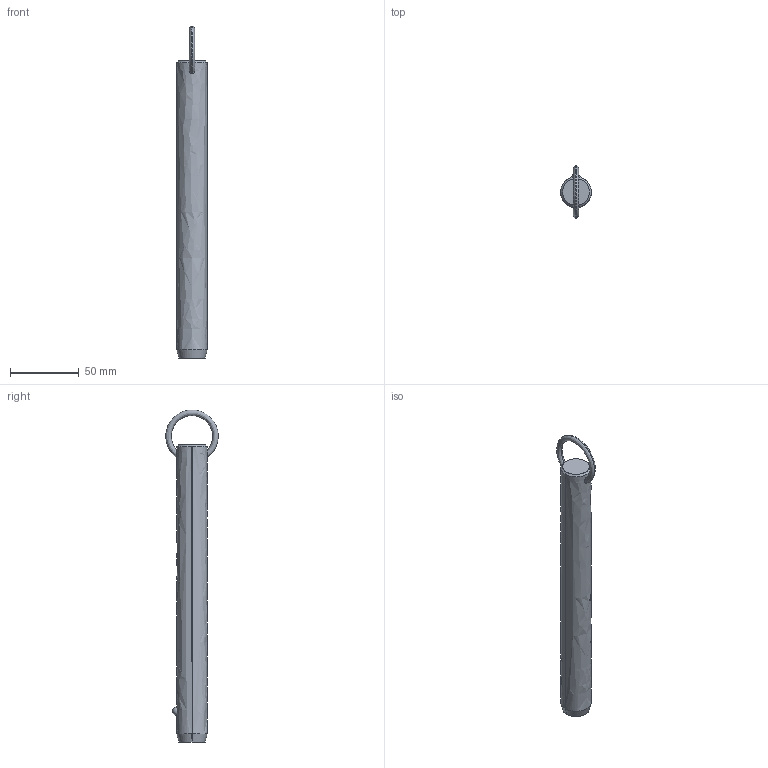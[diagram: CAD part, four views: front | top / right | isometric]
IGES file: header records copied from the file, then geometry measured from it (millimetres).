
Start section: SolidWorks IGES file using analytic representation for surfaces
Global section: file name: C:\Users\liam_\OneDrive\Documents\WORK\Work for WixRoyd\Job Files\J-00019 - Matt Davis CAD Checking\04. CAD Drawings\automotion20190605\P1250.2_v2\P1250.2_v2_20190729_IGES\P1250.087-700.igs; native system: SolidWorks 2017; preprocessor: SolidWorks 2017; author: liam_; date: 190730.172926; units: millimetre
Bounding box: 22.2 x 38.04 x 241.28 mm (x, y, z)
Surface area: 16701.4 mm2 (no closed solid volume)
Topology: 0 solids, 0 shells, 12 faces, 302 edges, 300 vertices
Faces by surface type: revolution 8, bspline 4
